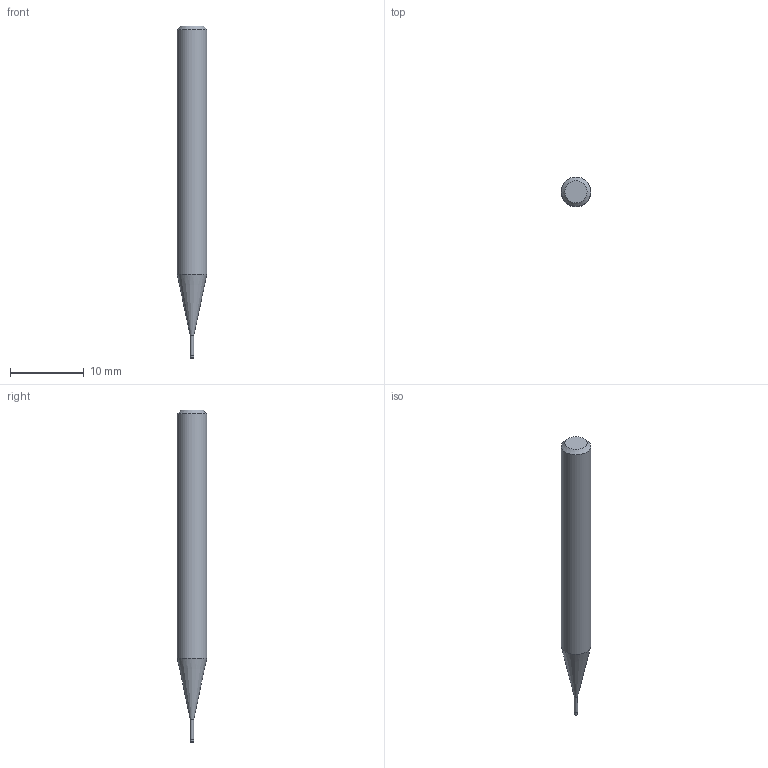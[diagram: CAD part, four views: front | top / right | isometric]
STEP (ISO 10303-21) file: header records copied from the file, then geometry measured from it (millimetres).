
FILE_DESCRIPTION((''),'2;1');
FILE_NAME('C:\Users\nsx150\AppData\Local\Temp\Mastercam 2021\3SYKECWX22\TEMP.step','2021-04-22T09:45:08',(''),(''),'STEP Write','Mastercam 2021 ... CNC Software, Inc.','');
FILE_SCHEMA(('AUTOMOTIVE_DESIGN'));
Length unit declared in the file: millimetre
Products named in the file (1): None
Bounding box: 4 x 4 x 45 mm (x, y, z)
Volume: 461.6 mm3; surface area: 496.3 mm2
Topology: 2 solids, 2 shells, 10 faces, 14 edges, 8 vertices
Faces by surface type: plane 4, cylinder 3, cone 2, torus 1
Full cylindrical faces by diameter (mm): 0.46 x1, 0.5 x1, 4 x1
Entity records: 232 total; most frequent: DIRECTION 40, CARTESIAN_POINT 28, AXIS2_PLACEMENT_3D 20, ORIENTED_EDGE 16, EDGE_LOOP 16, STYLED_ITEM 13, ADVANCED_FACE 10, FACE_BOUND 10
